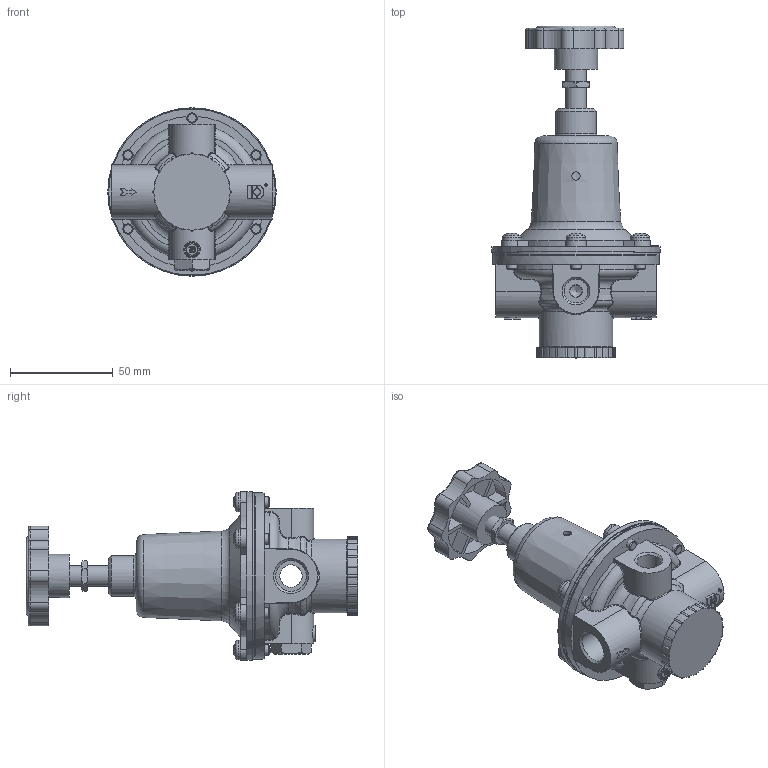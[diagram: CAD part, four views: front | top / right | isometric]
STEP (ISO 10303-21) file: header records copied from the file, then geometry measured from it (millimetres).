
FILE_DESCRIPTION(/* description */ (''),/* implementation_level */ '2;1');
FILE_NAME(/* name */ 'U:/AirCom-Produktdokumentation/Druckregler/R15/Zeichnungen/CAD-Aircom/3D/B-R15-03x.step',/* time_stamp */ '2022-01-26T14:46:14+01:00',/* author */ (''),/* organization */ (''),/* preprocessor_version */ 'ST-DEVELOPER v18.1',/* originating_system */ 'Autodesk Translation Framework v10.13.0.1454',/* authorisation */ '');
FILE_SCHEMA (('AUTOMOTIVE_DESIGN { 1 0 10303 214 3 1 1 }'));
Length unit declared in the file: millimetre
Products named in the file (21): C81033; P20245; P34099; OR 07073; P21044_1; P21044-Aux01_1; P38040_1; 0DE50309_7; 0DE50309_8; 0DE50309_9; OR 07027; P34098; C40004_1; P40017; P43128_1; P28080; 0DE50309_10; 0DE50309_11; 0DE50309_12; C23055_1; P23040_4
Assembly tree (20 placements, depth 3):
  C81033
    P20245
    P34099
    OR 07073
    P21044_1
      P21044-Aux01_1
      P38040_1
    0DE50309_7
    0DE50309_8
    0DE50309_9
    OR 07027
    P34098
    C40004_1
      P40017
      P43128_1
      P28080
    0DE50309_10
    0DE50309_11
    0DE50309_12
    C23055_1
      P23040_4
Bounding box: 82 x 161.5 x 82 mm (x, y, z)
Volume: 100195 mm3; surface area: 71885 mm2
Topology: 17 solids, 17 shells, 933 faces, 2456 edges, 1556 vertices
Faces by surface type: plane 307, cylinder 282, cone 130, torus 129, bspline 76, sphere 9
Full cylindrical faces by diameter (mm): 0.5 x1, 0.85 x12, 1 x1, 1.2 x1, 4 x1, 4.134 x6, 4.567 x6, 5 x6, 5.5 x1, 5.8 x6, 6 x2, 7 x1, 7.2 x1, 8 x1, 8.8 x1, 8.917 x1, 10 x1, 10.5 x1, 11 x2, 11.5 x2, 13 x2, 13.157 x1, 14.95 x2, 16 x1, 20 x1, 21 x1, 29 x2, 30 x1, 30.5 x1, 35 x1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
Entity records: 34913 total; most frequent: CARTESIAN_POINT 11185, ORIENTED_EDGE 4898, DIRECTION 4865, EDGE_CURVE 2449, AXIS2_PLACEMENT_3D 2047, VERTEX_POINT 1556, CIRCLE 1082, EDGE_LOOP 1011
